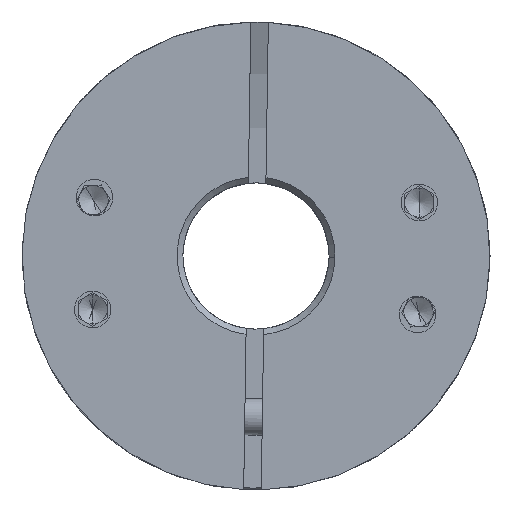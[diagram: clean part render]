
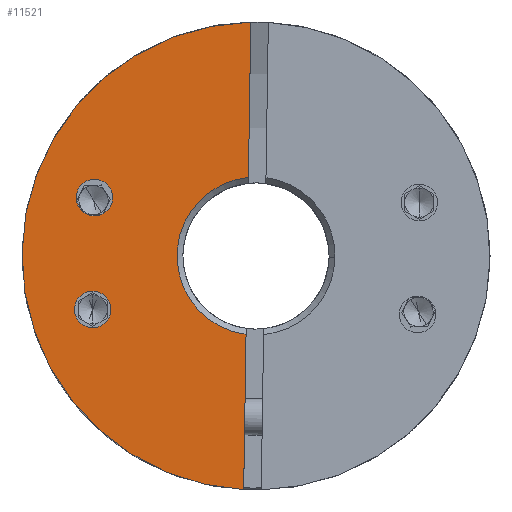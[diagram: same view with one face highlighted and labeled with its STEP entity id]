
A CAD part, front view. The second image highlights one B-rep face of the part: STEP entity #11521.
In plain terms, the highlighted planar face has unit normal (0, -1, 0).
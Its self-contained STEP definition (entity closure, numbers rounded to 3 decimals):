
#837 = CIRCLE ( 'NONE', #6931, 16. ) ;
#842 = EDGE_CURVE ( 'NONE', #5686, #20051, #837, .T. ) ;
#870 = CIRCLE ( 'NONE', #22855, 1.25 ) ;
#1157 = EDGE_CURVE ( 'NONE', #2194, #3261, #870, .T. ) ;
#1409 = CIRCLE ( 'NONE', #19770, 1.25 ) ;
#1624 = ORIENTED_EDGE ( 'NONE', *, *, #4963, .F. ) ;
#1864 = CARTESIAN_POINT ( 'NONE',  ( -69.095, -19.411, -3.675 ) ) ;
#2194 = VERTEX_POINT ( 'NONE', #8342 ) ;
#2239 = CARTESIAN_POINT ( 'NONE',  ( -60.021, -19.411, -15.978 ) ) ;
#2533 = AXIS2_PLACEMENT_3D ( 'NONE', #2565, #13577, #6260 ) ;
#2565 = CARTESIAN_POINT ( 'NONE',  ( -59.178, -19.411, 0. ) ) ;
#3261 = VERTEX_POINT ( 'NONE', #5203 ) ;
#3630 = EDGE_LOOP ( 'NONE', ( #7289, #11808 ) ) ;
#4963 = EDGE_CURVE ( 'NONE', #5686, #13920, #7337, .T. ) ;
#5203 = CARTESIAN_POINT ( 'NONE',  ( -71.479, -19.411, 4.013 ) ) ;
#5395 = VERTEX_POINT ( 'NONE', #2239 ) ;
#5686 = VERTEX_POINT ( 'NONE', #16086 ) ;
#5817 = CIRCLE ( 'NONE', #22266, 1.25 ) ;
#6260 = DIRECTION ( 'NONE',  ( 1., 0., -0.015 ) ) ;
#6354 = DIRECTION ( 'NONE',  ( 0., 1., 0. ) ) ;
#6788 = DIRECTION ( 'NONE',  ( 0., 1., 0. ) ) ;
#6931 = AXIS2_PLACEMENT_3D ( 'NONE', #20596, #7714, #8110 ) ;
#7026 = DIRECTION ( 'NONE',  ( 1., 0., -0.015 ) ) ;
#7289 = ORIENTED_EDGE ( 'NONE', *, *, #7835, .T. ) ;
#7337 = LINE ( 'NONE', #21179, #13039 ) ;
#7561 = DIRECTION ( 'NONE',  ( 0., -1., 0. ) ) ;
#7714 = DIRECTION ( 'NONE',  ( 0., -1., 0. ) ) ;
#7835 = EDGE_CURVE ( 'NONE', #3261, #2194, #12631, .T. ) ;
#7944 = ORIENTED_EDGE ( 'NONE', *, *, #13250, .T. ) ;
#8046 = CARTESIAN_POINT ( 'NONE',  ( -71.595, -19.411, -3.637 ) ) ;
#8086 = DIRECTION ( 'NONE',  ( 1., 0., -0.015 ) ) ;
#8110 = DIRECTION ( 'NONE',  ( 1., 0., -0.015 ) ) ;
#8342 = CARTESIAN_POINT ( 'NONE',  ( -68.979, -19.411, 3.975 ) ) ;
#8421 = DIRECTION ( 'NONE',  ( 0., 1., 0. ) ) ;
#9512 = DIRECTION ( 'NONE',  ( 1., 0., -0.015 ) ) ;
#10183 = DIRECTION ( 'NONE',  ( -0.015, 0., -1. ) ) ;
#10191 = AXIS2_PLACEMENT_3D ( 'NONE', #18733, #7561, #9512 ) ;
#10305 = DIRECTION ( 'NONE',  ( 1., 0., -0.015 ) ) ;
#11241 = EDGE_CURVE ( 'NONE', #20051, #5395, #12480, .T. ) ;
#11521 = ADVANCED_FACE ( 'NONE', ( #24177, #22993, #11886 ), #14870, .T. ) ;
#11808 = ORIENTED_EDGE ( 'NONE', *, *, #1157, .T. ) ;
#11886 = FACE_BOUND ( 'NONE', #16949, .T. ) ;
#12379 = EDGE_CURVE ( 'NONE', #17784, #13920, #13383, .T. ) ;
#12480 = CIRCLE ( 'NONE', #2533, 16. ) ;
#12631 = CIRCLE ( 'NONE', #15031, 1.25 ) ;
#12634 = ORIENTED_EDGE ( 'NONE', *, *, #12801, .T. ) ;
#12801 = EDGE_CURVE ( 'NONE', #18485, #19096, #5817, .T. ) ;
#13039 = VECTOR ( 'NONE', #23289, 1000. ) ;
#13250 = EDGE_CURVE ( 'NONE', #19096, #18485, #1409, .T. ) ;
#13273 = EDGE_LOOP ( 'NONE', ( #19768, #14829, #1624, #21858, #13479 ) ) ;
#13383 = CIRCLE ( 'NONE', #19588, 5.4 ) ;
#13479 = ORIENTED_EDGE ( 'NONE', *, *, #11241, .T. ) ;
#13577 = DIRECTION ( 'NONE',  ( 0., -1., 0. ) ) ;
#13612 = EDGE_CURVE ( 'NONE', #17784, #5395, #13670, .T. ) ;
#13670 = LINE ( 'NONE', #23286, #21253 ) ;
#13765 = DIRECTION ( 'NONE',  ( 0., 1., 0. ) ) ;
#13920 = VERTEX_POINT ( 'NONE', #18531 ) ;
#14414 = CARTESIAN_POINT ( 'NONE',  ( -70.345, -19.411, -3.656 ) ) ;
#14829 = ORIENTED_EDGE ( 'NONE', *, *, #12379, .T. ) ;
#14870 = PLANE ( 'NONE',  #10191 ) ;
#15031 = AXIS2_PLACEMENT_3D ( 'NONE', #16067, #6788, #16234 ) ;
#15411 = CARTESIAN_POINT ( 'NONE',  ( -70.345, -19.411, -3.656 ) ) ;
#15466 = DIRECTION ( 'NONE',  ( 1., 0., -0.015 ) ) ;
#15632 = CARTESIAN_POINT ( 'NONE',  ( -70.229, -19.411, 3.994 ) ) ;
#15679 = CARTESIAN_POINT ( 'NONE',  ( -59.178, -19.411, 0. ) ) ;
#15828 = CARTESIAN_POINT ( 'NONE',  ( -59.86, -19.411, -5.357 ) ) ;
#16067 = CARTESIAN_POINT ( 'NONE',  ( -70.229, -19.411, 3.994 ) ) ;
#16086 = CARTESIAN_POINT ( 'NONE',  ( -59.535, -19.411, 15.996 ) ) ;
#16234 = DIRECTION ( 'NONE',  ( 1., 0., -0.015 ) ) ;
#16949 = EDGE_LOOP ( 'NONE', ( #12634, #7944 ) ) ;
#17784 = VERTEX_POINT ( 'NONE', #15828 ) ;
#18485 = VERTEX_POINT ( 'NONE', #8046 ) ;
#18531 = CARTESIAN_POINT ( 'NONE',  ( -59.697, -19.411, 5.375 ) ) ;
#18733 = CARTESIAN_POINT ( 'NONE',  ( -59.178, -19.411, 0. ) ) ;
#19096 = VERTEX_POINT ( 'NONE', #1864 ) ;
#19588 = AXIS2_PLACEMENT_3D ( 'NONE', #15679, #8421, #10305 ) ;
#19768 = ORIENTED_EDGE ( 'NONE', *, *, #13612, .F. ) ;
#19770 = AXIS2_PLACEMENT_3D ( 'NONE', #14414, #19990, #7026 ) ;
#19990 = DIRECTION ( 'NONE',  ( 0., 1., 0. ) ) ;
#20051 = VERTEX_POINT ( 'NONE', #22226 ) ;
#20596 = CARTESIAN_POINT ( 'NONE',  ( -59.178, -19.411, 0. ) ) ;
#21179 = CARTESIAN_POINT ( 'NONE',  ( -59.687, -19.411, 6.008 ) ) ;
#21253 = VECTOR ( 'NONE', #10183, 1000. ) ;
#21858 = ORIENTED_EDGE ( 'NONE', *, *, #842, .T. ) ;
#22226 = CARTESIAN_POINT ( 'NONE',  ( -75.176, -19.411, 0.243 ) ) ;
#22266 = AXIS2_PLACEMENT_3D ( 'NONE', #15411, #13765, #8086 ) ;
#22855 = AXIS2_PLACEMENT_3D ( 'NONE', #15632, #6354, #15466 ) ;
#22993 = FACE_BOUND ( 'NONE', #3630, .T. ) ;
#23286 = CARTESIAN_POINT ( 'NONE',  ( -59.687, -19.411, 6.008 ) ) ;
#23289 = DIRECTION ( 'NONE',  ( -0.015, 0., -1. ) ) ;
#24177 = FACE_OUTER_BOUND ( 'NONE', #13273, .T. ) ;
